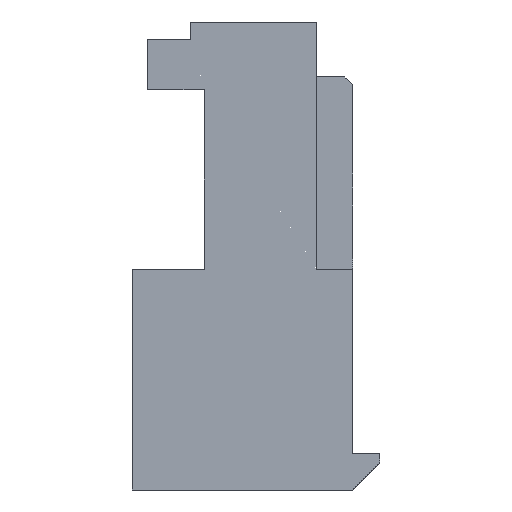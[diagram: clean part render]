
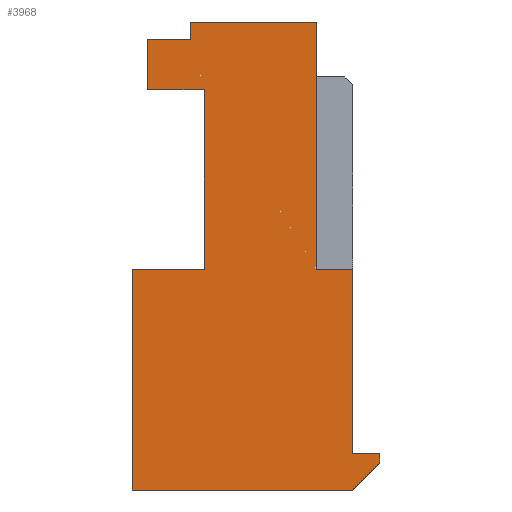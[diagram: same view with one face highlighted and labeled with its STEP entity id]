
A CAD part, left-side view. The second image highlights one B-rep face of the part: STEP entity #3968.
In plain terms, the highlighted planar face has unit normal (-1, 0, 0).
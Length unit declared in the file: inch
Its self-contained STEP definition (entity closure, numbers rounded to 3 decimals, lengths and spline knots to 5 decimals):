
#2 = VERTEX_POINT ( 'NONE', #831 ) ;
#4 = VERTEX_POINT ( 'NONE', #830 ) ;
#5 = VERTEX_POINT ( 'NONE', #2417 ) ;
#6 = VERTEX_POINT ( 'NONE', #832 ) ;
#7 = VERTEX_POINT ( 'NONE', #2418 ) ;
#8 = VERTEX_POINT ( 'NONE', #829 ) ;
#9 = VERTEX_POINT ( 'NONE', #2419 ) ;
#133 = EDGE_LOOP ( 'NONE', ( #5258, #5259, #5260, #5261, #5262, #5263, #5264, #5265, #5266, #5267, #5268, #5269, #5270, #5271, #5272 ) ) ;
#829 = CARTESIAN_POINT ( 'NONE',  ( -0.25, 0.067, -0.019 ) ) ;
#830 = CARTESIAN_POINT ( 'NONE',  ( -0.25, 0.132, -0.275 ) ) ;
#831 = CARTESIAN_POINT ( 'NONE',  ( -0.25, 0.132, -0.52 ) ) ;
#832 = CARTESIAN_POINT ( 'NONE',  ( -0.25, -0.113, -0.52 ) ) ;
#1070 = VERTEX_POINT ( 'NONE', #3192 ) ;
#1071 = VERTEX_POINT ( 'NONE', #3193 ) ;
#1074 = VERTEX_POINT ( 'NONE', #3196 ) ;
#1077 = VERTEX_POINT ( 'NONE', #3199 ) ;
#1131 = VERTEX_POINT ( 'NONE', #3253 ) ;
#1133 = VERTEX_POINT ( 'NONE', #3255 ) ;
#1134 = VERTEX_POINT ( 'NONE', #3256 ) ;
#1135 = VERTEX_POINT ( 'NONE', #3257 ) ;
#1621 = EDGE_CURVE ( 'NONE', #1070, #1071, #7422, .T. ) ;
#1637 = EDGE_CURVE ( 'NONE', #1077, #1074, #7505, .T. ) ;
#2417 = CARTESIAN_POINT ( 'NONE',  ( -0.25, 0.052, -0.275 ) ) ;
#2418 = CARTESIAN_POINT ( 'NONE',  ( -0.25, 0.115, -0.019 ) ) ;
#2419 = CARTESIAN_POINT ( 'NONE',  ( -0.25, 0.067, 0. ) ) ;
#3192 = CARTESIAN_POINT ( 'NONE',  ( -0.25, -0.113, -0.275 ) ) ;
#3193 = CARTESIAN_POINT ( 'NONE',  ( -0.25, -0.073, -0.275 ) ) ;
#3196 = CARTESIAN_POINT ( 'NONE',  ( -0.25, 0.115, -0.075 ) ) ;
#3199 = CARTESIAN_POINT ( 'NONE',  ( -0.25, 0.052, -0.075 ) ) ;
#3253 = CARTESIAN_POINT ( 'NONE',  ( -0.25, -0.073, 0. ) ) ;
#3255 = CARTESIAN_POINT ( 'NONE',  ( -0.25, -0.113, -0.48 ) ) ;
#3256 = CARTESIAN_POINT ( 'NONE',  ( -0.25, -0.143, -0.48 ) ) ;
#3257 = CARTESIAN_POINT ( 'NONE',  ( -0.25, -0.143, -0.49 ) ) ;
#3968 = ADVANCED_FACE ( 'NONE', ( #7868 ), #9320, .F. ) ;
#4013 = EDGE_CURVE ( 'NONE', #1134, #1135, #7948, .T. ) ;
#4017 = EDGE_CURVE ( 'NONE', #1131, #1071, #7956, .T. ) ;
#4021 = EDGE_CURVE ( 'NONE', #1070, #1133, #7964, .T. ) ;
#4022 = EDGE_CURVE ( 'NONE', #1133, #1134, #7966, .T. ) ;
#4023 = EDGE_CURVE ( 'NONE', #1135, #6, #7968, .T. ) ;
#4027 = EDGE_CURVE ( 'NONE', #5, #1077, #7976, .T. ) ;
#4029 = EDGE_CURVE ( 'NONE', #7, #8, #7980, .T. ) ;
#4031 = EDGE_CURVE ( 'NONE', #1074, #7, #7984, .T. ) ;
#4032 = EDGE_CURVE ( 'NONE', #8, #9, #7986, .T. ) ;
#4036 = EDGE_CURVE ( 'NONE', #9, #1131, #7994, .T. ) ;
#4040 = EDGE_CURVE ( 'NONE', #4, #5, #8002, .T. ) ;
#4045 = EDGE_CURVE ( 'NONE', #6, #2, #7975, .T. ) ;
#4047 = EDGE_CURVE ( 'NONE', #2, #4, #7993, .T. ) ;
#4261 = AXIS2_PLACEMENT_3D ( 'NONE', #9323, #9329, #9330 ) ;
#5258 = ORIENTED_EDGE ( 'NONE', *, *, #4032, .F. ) ;
#5259 = ORIENTED_EDGE ( 'NONE', *, *, #4029, .F. ) ;
#5260 = ORIENTED_EDGE ( 'NONE', *, *, #4031, .F. ) ;
#5261 = ORIENTED_EDGE ( 'NONE', *, *, #1637, .F. ) ;
#5262 = ORIENTED_EDGE ( 'NONE', *, *, #4027, .F. ) ;
#5263 = ORIENTED_EDGE ( 'NONE', *, *, #4040, .F. ) ;
#5264 = ORIENTED_EDGE ( 'NONE', *, *, #4047, .F. ) ;
#5265 = ORIENTED_EDGE ( 'NONE', *, *, #4045, .F. ) ;
#5266 = ORIENTED_EDGE ( 'NONE', *, *, #4023, .F. ) ;
#5267 = ORIENTED_EDGE ( 'NONE', *, *, #4013, .F. ) ;
#5268 = ORIENTED_EDGE ( 'NONE', *, *, #4022, .F. ) ;
#5269 = ORIENTED_EDGE ( 'NONE', *, *, #4021, .F. ) ;
#5270 = ORIENTED_EDGE ( 'NONE', *, *, #1621, .T. ) ;
#5271 = ORIENTED_EDGE ( 'NONE', *, *, #4017, .F. ) ;
#5272 = ORIENTED_EDGE ( 'NONE', *, *, #4036, .F. ) ;
#6335 = CARTESIAN_POINT ( 'NONE',  ( -0.25, -0.113, -0.275 ) ) ;
#6376 = DIRECTION ( 'NONE',  ( 0., 1., 0. ) ) ;
#6407 = CARTESIAN_POINT ( 'NONE',  ( -0.25, 0.052, -0.075 ) ) ;
#6408 = DIRECTION ( 'NONE',  ( 0., 1., 0. ) ) ;
#7422 = LINE ( 'NONE', #6335, #7473 ) ;
#7473 = VECTOR ( 'NONE', #6376, 39.37008 ) ;
#7505 = LINE ( 'NONE', #6407, #7506 ) ;
#7506 = VECTOR ( 'NONE', #6408, 39.37008 ) ;
#7868 = FACE_OUTER_BOUND ( 'NONE', #133, .T. ) ;
#7948 = LINE ( 'NONE', #9433, #7949 ) ;
#7949 = VECTOR ( 'NONE', #9434, 39.37008 ) ;
#7956 = LINE ( 'NONE', #9441, #7957 ) ;
#7957 = VECTOR ( 'NONE', #9442, 39.37008 ) ;
#7964 = LINE ( 'NONE', #9449, #7965 ) ;
#7965 = VECTOR ( 'NONE', #9450, 39.37008 ) ;
#7966 = LINE ( 'NONE', #9451, #7967 ) ;
#7967 = VECTOR ( 'NONE', #9452, 39.37008 ) ;
#7968 = LINE ( 'NONE', #9453, #7969 ) ;
#7969 = VECTOR ( 'NONE', #9454, 39.37008 ) ;
#7975 = LINE ( 'NONE', #9485, #8012 ) ;
#7976 = LINE ( 'NONE', #9461, #7977 ) ;
#7977 = VECTOR ( 'NONE', #9462, 39.37008 ) ;
#7980 = LINE ( 'NONE', #9465, #7981 ) ;
#7981 = VECTOR ( 'NONE', #9466, 39.37008 ) ;
#7984 = LINE ( 'NONE', #9469, #7985 ) ;
#7985 = VECTOR ( 'NONE', #9470, 39.37008 ) ;
#7986 = LINE ( 'NONE', #9471, #7987 ) ;
#7987 = VECTOR ( 'NONE', #9472, 39.37008 ) ;
#7993 = LINE ( 'NONE', #9497, #8016 ) ;
#7994 = LINE ( 'NONE', #9479, #7995 ) ;
#7995 = VECTOR ( 'NONE', #9480, 39.37008 ) ;
#8002 = LINE ( 'NONE', #9487, #8003 ) ;
#8003 = VECTOR ( 'NONE', #9488, 39.37008 ) ;
#8012 = VECTOR ( 'NONE', #9498, 39.37008 ) ;
#8016 = VECTOR ( 'NONE', #9502, 39.37008 ) ;
#9320 = PLANE ( 'NONE',  #4261 ) ;
#9323 = CARTESIAN_POINT ( 'NONE',  ( -0.25, 0., 0. ) ) ;
#9329 = DIRECTION ( 'NONE',  ( 1., 0., 0. ) ) ;
#9330 = DIRECTION ( 'NONE',  ( 0., 0., -1. ) ) ;
#9433 = CARTESIAN_POINT ( 'NONE',  ( -0.25, -0.143, 0. ) ) ;
#9434 = DIRECTION ( 'NONE',  ( 0., 0., -1. ) ) ;
#9441 = CARTESIAN_POINT ( 'NONE',  ( -0.25, -0.073, 0. ) ) ;
#9442 = DIRECTION ( 'NONE',  ( 0., 0., -1. ) ) ;
#9449 = CARTESIAN_POINT ( 'NONE',  ( -0.25, -0.113, 0. ) ) ;
#9450 = DIRECTION ( 'NONE',  ( 0., 0., -1. ) ) ;
#9451 = CARTESIAN_POINT ( 'NONE',  ( -0.25, 0., -0.48 ) ) ;
#9452 = DIRECTION ( 'NONE',  ( 0., -1., 0. ) ) ;
#9453 = CARTESIAN_POINT ( 'NONE',  ( -0.25, -0.143, -0.49 ) ) ;
#9454 = DIRECTION ( 'NONE',  ( 0., 0.707, -0.707 ) ) ;
#9461 = CARTESIAN_POINT ( 'NONE',  ( -0.25, 0.052, 0. ) ) ;
#9462 = DIRECTION ( 'NONE',  ( 0., 0., 1. ) ) ;
#9465 = CARTESIAN_POINT ( 'NONE',  ( -0.25, 0., -0.019 ) ) ;
#9466 = DIRECTION ( 'NONE',  ( 0., -1., 0. ) ) ;
#9469 = CARTESIAN_POINT ( 'NONE',  ( -0.25, 0.115, 0. ) ) ;
#9470 = DIRECTION ( 'NONE',  ( 0., 0., 1. ) ) ;
#9471 = CARTESIAN_POINT ( 'NONE',  ( -0.25, 0.067, 0. ) ) ;
#9472 = DIRECTION ( 'NONE',  ( 0., 0., 1. ) ) ;
#9479 = CARTESIAN_POINT ( 'NONE',  ( -0.25, 0., 0. ) ) ;
#9480 = DIRECTION ( 'NONE',  ( 0., -1., 0. ) ) ;
#9485 = CARTESIAN_POINT ( 'NONE',  ( -0.25, 0., -0.52 ) ) ;
#9487 = CARTESIAN_POINT ( 'NONE',  ( -0.25, 0., -0.275 ) ) ;
#9488 = DIRECTION ( 'NONE',  ( 0., -1., 0. ) ) ;
#9497 = CARTESIAN_POINT ( 'NONE',  ( -0.25, 0.132, -0.52 ) ) ;
#9498 = DIRECTION ( 'NONE',  ( 0., 1., 0. ) ) ;
#9502 = DIRECTION ( 'NONE',  ( 0., 0., 1. ) ) ;
